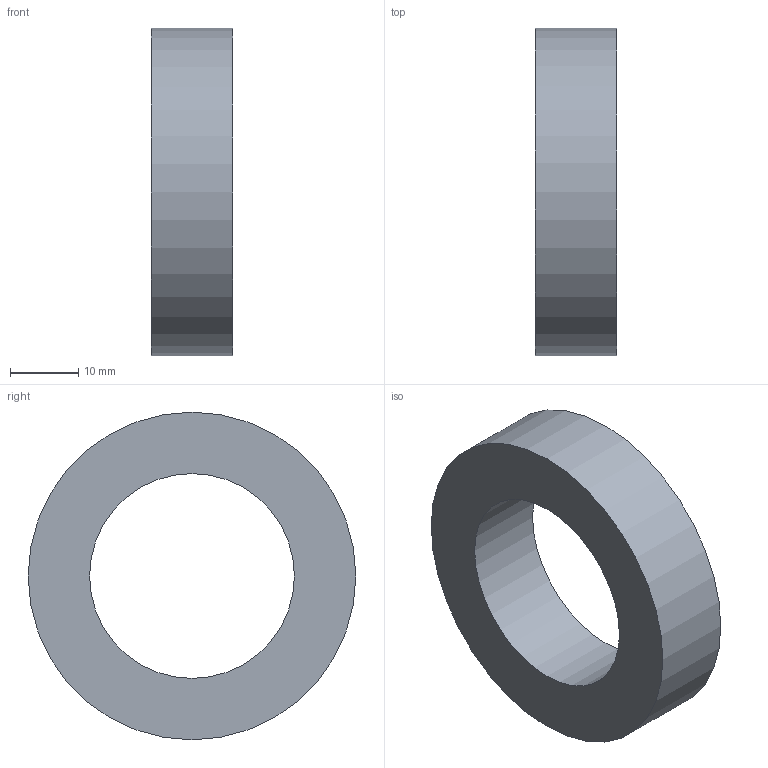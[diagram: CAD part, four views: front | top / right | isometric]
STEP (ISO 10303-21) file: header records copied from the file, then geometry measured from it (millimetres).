
FILE_DESCRIPTION(('Open CASCADE Model'),'2;1');
FILE_NAME('Open CASCADE Shape Model','2026-10-17T16:45:05',('Author'),( 'Open CASCADE'),'Open CASCADE STEP processor 8.0','build123d', 'Unknown');
FILE_SCHEMA(('AUTOMOTIVE_DESIGN { 1 0 10303 214 1 1 1 1 }'));
Length unit declared in the file: millimetre
Products named in the file (1): COMPOUND
Bounding box: 12 x 48 x 48 mm (x, y, z)
Volume: 13232.4 mm3; surface area: 5145.9 mm2
Topology: 1 solids, 1 shells, 4 faces, 6 edges, 4 vertices
Faces by surface type: cylinder 2, plane 2
Full cylindrical faces by diameter (mm): 30 x1, 48 x1
Entity records: 186 total; most frequent: DIRECTION 32, CARTESIAN_POINT 27, ORIENTED_EDGE 12, PCURVE 12, DEFINITIONAL_REPRESENTATION 12, LINE 10, VECTOR 10, AXIS2_PLACEMENT_3D 9
